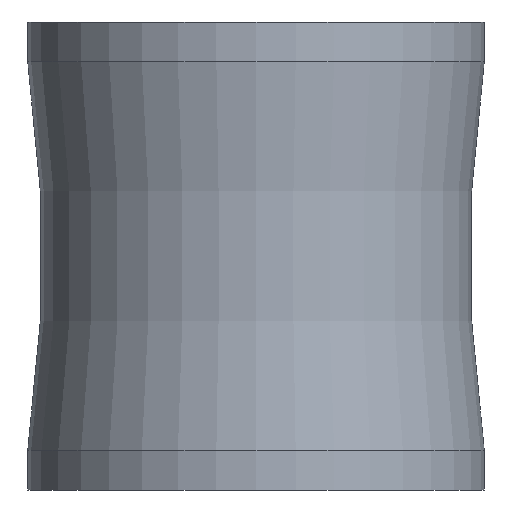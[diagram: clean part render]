
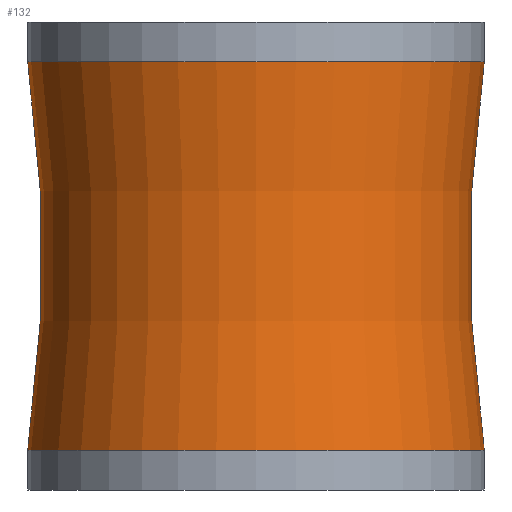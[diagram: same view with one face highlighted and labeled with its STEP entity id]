
A CAD part, front view. The second image highlights one B-rep face of the part: STEP entity #132.
In plain terms, the highlighted toroidal (fillet/blend) face has major radius 269.95 mm and minor radius 232.45 mm.
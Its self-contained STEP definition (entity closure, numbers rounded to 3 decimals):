
#98=TOROIDAL_SURFACE('',#261,269.95,232.45);
#110=FACE_OUTER_BOUND('',#150,.T.);
#132=ADVANCED_FACE('',(#110),#98,.F.);
#150=EDGE_LOOP('',(#181,#182,#183,#184));
#181=ORIENTED_EDGE('',*,*,#219,.F.);
#182=ORIENTED_EDGE('',*,*,#218,.T.);
#183=ORIENTED_EDGE('',*,*,#221,.T.);
#184=ORIENTED_EDGE('',*,*,#222,.F.);
#201=VERTEX_POINT('',#344);
#202=VERTEX_POINT('',#346);
#203=VERTEX_POINT('',#352);
#204=VERTEX_POINT('',#354);
#218=EDGE_CURVE('',#201,#202,#234,.T.);
#219=EDGE_CURVE('',#201,#203,#235,.T.);
#221=EDGE_CURVE('',#202,#204,#237,.T.);
#222=EDGE_CURVE('',#203,#204,#238,.T.);
#234=CIRCLE('',#254,40.);
#235=CIRCLE('',#256,232.45);
#237=CIRCLE('',#258,232.45);
#238=CIRCLE('',#260,40.);
#254=AXIS2_PLACEMENT_3D('',#349,#298,#299);
#256=AXIS2_PLACEMENT_3D('',#351,#302,#303);
#258=AXIS2_PLACEMENT_3D('',#355,#306,#307);
#260=AXIS2_PLACEMENT_3D('',#357,#310,#311);
#261=AXIS2_PLACEMENT_3D('',#358,#312,#313);
#298=DIRECTION('',(0.,0.,1.));
#299=DIRECTION('',(0.,1.,0.));
#302=DIRECTION('',(0.,-1.,0.));
#303=DIRECTION('',(0.947,0.,0.322));
#306=DIRECTION('',(0.,1.,0.));
#307=DIRECTION('',(-0.947,0.,0.322));
#310=DIRECTION('',(0.,0.,1.));
#311=DIRECTION('',(0.,1.,0.));
#312=DIRECTION('',(0.,0.,1.));
#313=DIRECTION('',(1.,0.,0.));
#344=CARTESIAN_POINT('',(-40.,0.,7.));
#346=CARTESIAN_POINT('',(40.,0.,7.));
#349=CARTESIAN_POINT('',(0.,0.,7.));
#351=CARTESIAN_POINT('',(-269.95,0.,41.));
#352=CARTESIAN_POINT('',(-40.,0.,75.));
#354=CARTESIAN_POINT('',(40.,0.,75.));
#355=CARTESIAN_POINT('',(269.95,0.,41.));
#357=CARTESIAN_POINT('',(0.,0.,75.));
#358=CARTESIAN_POINT('',(0.,0.,41.));
